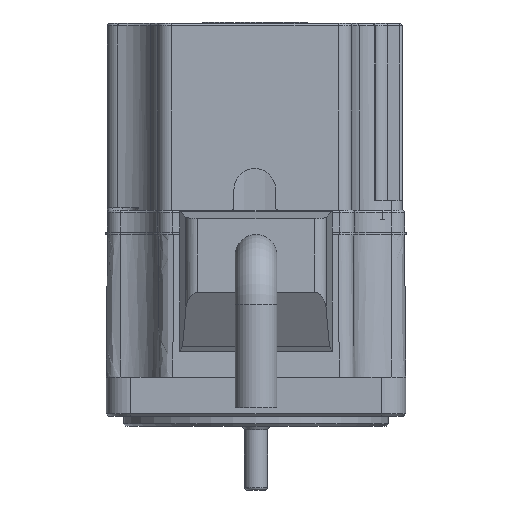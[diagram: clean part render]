
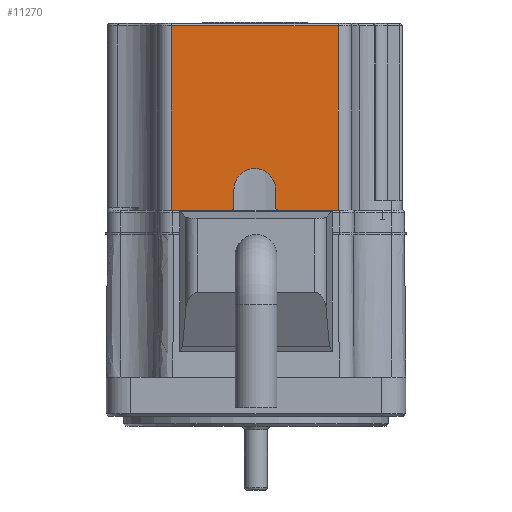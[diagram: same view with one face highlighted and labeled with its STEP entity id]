
A CAD part, front view. The second image highlights one B-rep face of the part: STEP entity #11270.
In plain terms, the highlighted planar face has unit normal (0, -1, 0).
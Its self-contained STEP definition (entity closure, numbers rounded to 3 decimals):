
#5686=CARTESIAN_POINT('',(-4.75,-30.,0.0));
#5687=VERTEX_POINT('',#5686);
#5694=CARTESIAN_POINT('',(-17.,-30.,0.0));
#5695=VERTEX_POINT('',#5694);
#5696=CARTESIAN_POINT('',(-17.,-30.,0.0));
#5697=DIRECTION('',(1.0,0.0,0.0));
#5698=VECTOR('',#5697,12.25);
#5699=LINE('',#5696,#5698);
#5700=EDGE_CURVE('',#5695,#5687,#5699,.T.);
#5997=CARTESIAN_POINT('',(17.,-30.,0.0));
#5998=VERTEX_POINT('',#5997);
#6006=CARTESIAN_POINT('',(4.75,-30.,0.0));
#6007=VERTEX_POINT('',#6006);
#6008=CARTESIAN_POINT('',(4.75,-30.,0.0));
#6009=DIRECTION('',(1.0,0.0,0.0));
#6010=VECTOR('',#6009,12.25);
#6011=LINE('',#6008,#6010);
#6012=EDGE_CURVE('',#6007,#5998,#6011,.T.);
#9355=CARTESIAN_POINT('',(4.25,-30.,0.5));
#9356=VERTEX_POINT('',#9355);
#9357=CARTESIAN_POINT('',(4.75,-30.,0.5));
#9358=DIRECTION('',(0.0,1.0,0.0));
#9359=DIRECTION('',(-0.707,0.0,-0.707));
#9360=AXIS2_PLACEMENT_3D('',#9357,#9358,#9359);
#9361=CIRCLE('',#9360,0.5);
#9362=EDGE_CURVE('',#6007,#9356,#9361,.T.);
#9444=CARTESIAN_POINT('',(-4.25,-30.,0.5));
#9445=VERTEX_POINT('',#9444);
#9446=CARTESIAN_POINT('',(-4.75,-30.,0.5));
#9447=DIRECTION('',(0.0,1.0,0.0));
#9448=DIRECTION('',(0.707,0.0,-0.707));
#9449=AXIS2_PLACEMENT_3D('',#9446,#9447,#9448);
#9450=CIRCLE('',#9449,0.5);
#9451=EDGE_CURVE('',#9445,#5687,#9450,.T.);
#9471=CARTESIAN_POINT('',(-4.25,-30.,4.2));
#9472=VERTEX_POINT('',#9471);
#9479=CARTESIAN_POINT('',(-4.25,-30.,0.5));
#9480=DIRECTION('',(0.0,0.0,1.0));
#9481=VECTOR('',#9480,3.7);
#9482=LINE('',#9479,#9481);
#9483=EDGE_CURVE('',#9445,#9472,#9482,.T.);
#9494=CARTESIAN_POINT('',(4.25,-30.,4.2));
#9495=VERTEX_POINT('',#9494);
#9496=CARTESIAN_POINT('',(4.25,-30.,4.2));
#9497=DIRECTION('',(0.0,0.0,-1.0));
#9498=VECTOR('',#9497,3.7);
#9499=LINE('',#9496,#9498);
#9500=EDGE_CURVE('',#9495,#9356,#9499,.T.);
#9519=CARTESIAN_POINT('',(0.0,-30.,4.2));
#9520=DIRECTION('',(0.0,1.0,0.0));
#9521=DIRECTION('',(1.0,0.0,0.0));
#9522=AXIS2_PLACEMENT_3D('',#9519,#9520,#9521);
#9523=CIRCLE('',#9522,4.25);
#9524=EDGE_CURVE('',#9472,#9495,#9523,.T.);
#10721=CARTESIAN_POINT('',(17.,-30.,37.5));
#10722=VERTEX_POINT('',#10721);
#10755=CARTESIAN_POINT('',(-17.,-30.,37.5));
#10756=VERTEX_POINT('',#10755);
#10764=CARTESIAN_POINT('',(-17.,-30.,37.5));
#10765=DIRECTION('',(1.0,0.0,0.0));
#10766=VECTOR('',#10765,34.);
#10767=LINE('',#10764,#10766);
#10768=EDGE_CURVE('',#10756,#10722,#10767,.T.);
#11237=CARTESIAN_POINT('',(17.,-30.,0.0));
#11238=DIRECTION('',(0.0,0.0,1.0));
#11239=VECTOR('',#11238,37.5);
#11240=LINE('',#11237,#11239);
#11241=EDGE_CURVE('',#5998,#10722,#11240,.T.);
#11248=CARTESIAN_POINT('',(-17.,-30.,0.0));
#11249=DIRECTION('',(0.0,-1.0,0.0));
#11250=DIRECTION('',(0.0,0.0,-1.0));
#11251=AXIS2_PLACEMENT_3D('',#11248,#11249,#11250);
#11252=PLANE('',#11251);
#11253=ORIENTED_EDGE('',*,*,#9362,.F.);
#11254=ORIENTED_EDGE('',*,*,#6012,.T.);
#11255=ORIENTED_EDGE('',*,*,#11241,.T.);
#11256=ORIENTED_EDGE('',*,*,#10768,.F.);
#11257=CARTESIAN_POINT('',(-17.,-30.,0.0));
#11258=DIRECTION('',(0.0,0.0,1.0));
#11259=VECTOR('',#11258,37.5);
#11260=LINE('',#11257,#11259);
#11261=EDGE_CURVE('',#5695,#10756,#11260,.T.);
#11262=ORIENTED_EDGE('',*,*,#11261,.F.);
#11263=ORIENTED_EDGE('',*,*,#5700,.T.);
#11264=ORIENTED_EDGE('',*,*,#9451,.F.);
#11265=ORIENTED_EDGE('',*,*,#9483,.T.);
#11266=ORIENTED_EDGE('',*,*,#9524,.T.);
#11267=ORIENTED_EDGE('',*,*,#9500,.T.);
#11268=EDGE_LOOP('',(#11253,#11254,#11255,#11256,#11262,#11263,#11264,#11265,#11266,#11267));
#11269=FACE_OUTER_BOUND('',#11268,.T.);
#11270=ADVANCED_FACE('',(#11269),#11252,.T.);
